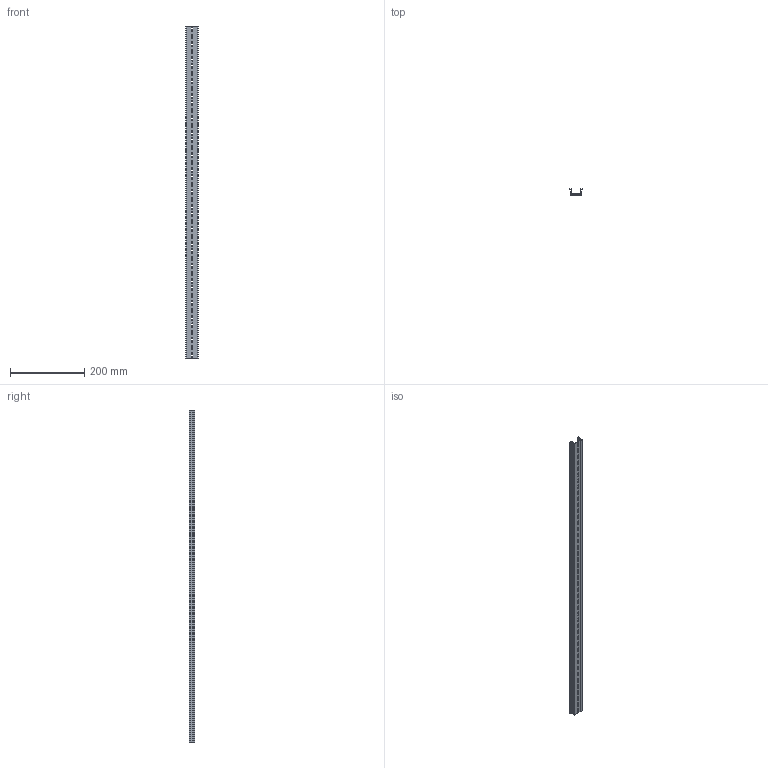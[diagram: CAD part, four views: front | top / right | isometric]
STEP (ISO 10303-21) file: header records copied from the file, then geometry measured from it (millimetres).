
FILE_DESCRIPTION(/* description */ (''),/* implementation_level */ '2;1');
FILE_NAME(/* name */ '22650-(TKB KD-45)HP 3D.stp',/* time_stamp */ '2024-12-05T14:26:59+09:00',/* author */ ('usercadg104'),/* organization */ (''),/* preprocessor_version */ 'ST-DEVELOPER v19.2',/* originating_system */ 'Autodesk Inventor 2023',/* authorisation */ '');
FILE_SCHEMA (('CONFIG_CONTROL_DESIGN'));
Length unit declared in the file: millimetre
Products named in the file (1): TKB KD-3(林)
Bounding box: 35 x 15 x 897 mm (x, y, z)
Volume: 104950.2 mm3; surface area: 121153.4 mm2
Topology: 1 solids, 1 shells, 220 faces, 654 edges, 436 vertices
Faces by surface type: plane 126, cylinder 94
Entity records: 7629 total; most frequent: CARTESIAN_POINT 1311, ORIENTED_EDGE 1308, DIRECTION 1284, EDGE_CURVE 654, LINE 466, VECTOR 466, VERTEX_POINT 436, AXIS2_PLACEMENT_3D 409
